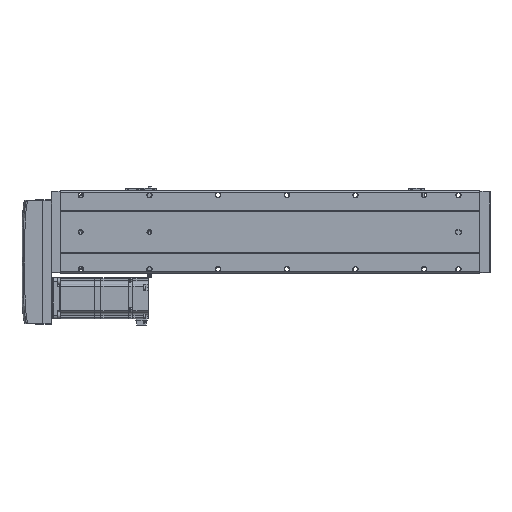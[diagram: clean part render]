
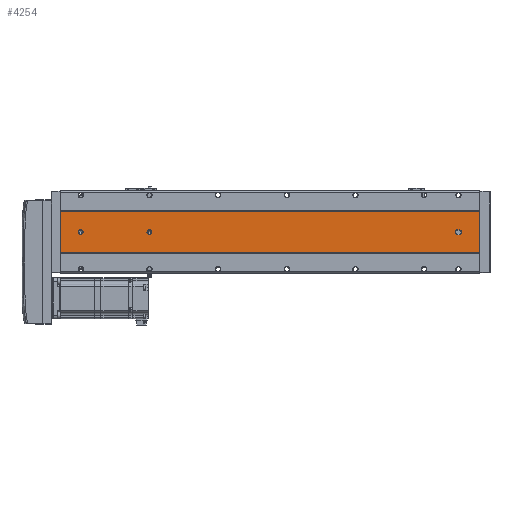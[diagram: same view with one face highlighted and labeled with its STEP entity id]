
A CAD part, front view. The second image highlights one B-rep face of the part: STEP entity #4254.
In plain terms, the highlighted planar face has unit normal (0, -1, 0).
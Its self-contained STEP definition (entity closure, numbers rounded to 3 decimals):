
#542 = DIRECTION ( 'NONE',  ( 0., 1., 0. ) ) ;
#2502 = LINE ( 'NONE', #67279, #59834 ) ;
#4254 = ADVANCED_FACE ( 'NONE', ( #12979, #61529, #55682, #29507 ), #33569, .F. ) ;
#5272 = DIRECTION ( 'NONE',  ( 0., 1., 0. ) ) ;
#5657 = VECTOR ( 'NONE', #48049, 1000. ) ;
#7286 = DIRECTION ( 'NONE',  ( 0., 0., 1. ) ) ;
#7957 = DIRECTION ( 'NONE',  ( 0., 0., 1. ) ) ;
#8368 = VERTEX_POINT ( 'NONE', #42038 ) ;
#11770 = EDGE_CURVE ( 'NONE', #33171, #8368, #33337, .T. ) ;
#11999 = EDGE_CURVE ( 'NONE', #25444, #15240, #68230, .T. ) ;
#12266 = CARTESIAN_POINT ( 'NONE',  ( -39.892, -52.848, 484.5 ) ) ;
#12838 = VERTEX_POINT ( 'NONE', #55148 ) ;
#12979 = FACE_BOUND ( 'NONE', #27440, .T. ) ;
#13769 = EDGE_LOOP ( 'NONE', ( #55875, #26212 ) ) ;
#14122 = VERTEX_POINT ( 'NONE', #28228 ) ;
#14485 = VECTOR ( 'NONE', #54344, 1000. ) ;
#15180 = LINE ( 'NONE', #21025, #73501 ) ;
#15240 = VERTEX_POINT ( 'NONE', #16102 ) ;
#15526 = VERTEX_POINT ( 'NONE', #41760 ) ;
#16102 = CARTESIAN_POINT ( 'NONE',  ( -39.892, -52.848, 584.5 ) ) ;
#18946 = VERTEX_POINT ( 'NONE', #64636 ) ;
#19432 = ORIENTED_EDGE ( 'NONE', *, *, #73470, .T. ) ;
#19637 = CIRCLE ( 'NONE', #65795, 3.5 ) ;
#21025 = CARTESIAN_POINT ( 'NONE',  ( -43.392, -52.848, 611. ) ) ;
#21238 = LINE ( 'NONE', #28581, #14485 ) ;
#23155 = DIRECTION ( 'NONE',  ( 0., 0., 1. ) ) ;
#24041 = AXIS2_PLACEMENT_3D ( 'NONE', #42446, #5272, #23155 ) ;
#24717 = CARTESIAN_POINT ( 'NONE',  ( -43.392, -52.848, 30. ) ) ;
#25276 = VERTEX_POINT ( 'NONE', #12266 ) ;
#25317 = CARTESIAN_POINT ( 'NONE',  ( -69.892, -52.848, 611. ) ) ;
#25444 = VERTEX_POINT ( 'NONE', #51061 ) ;
#26212 = ORIENTED_EDGE ( 'NONE', *, *, #79389, .T. ) ;
#27440 = EDGE_LOOP ( 'NONE', ( #33205, #69067, #68941, #31329, #71698 ) ) ;
#28228 = CARTESIAN_POINT ( 'NONE',  ( -39.892, -52.848, 26.5 ) ) ;
#28409 = DIRECTION ( 'NONE',  ( 0., 0., 1. ) ) ;
#28581 = CARTESIAN_POINT ( 'NONE',  ( -69.892, -52.848, 611. ) ) ;
#29119 = DIRECTION ( 'NONE',  ( 0., 0., 1. ) ) ;
#29332 = CARTESIAN_POINT ( 'NONE',  ( -36.392, -52.848, 611. ) ) ;
#29507 = FACE_OUTER_BOUND ( 'NONE', #69387, .T. ) ;
#29638 = DIRECTION ( 'NONE',  ( 0., 1., 0. ) ) ;
#30088 = DIRECTION ( 'NONE',  ( 1., 0., 0. ) ) ;
#30476 = LINE ( 'NONE', #45319, #53736 ) ;
#31329 = ORIENTED_EDGE ( 'NONE', *, *, #75449, .T. ) ;
#31357 = EDGE_CURVE ( 'NONE', #8368, #12838, #30476, .T. ) ;
#33171 = VERTEX_POINT ( 'NONE', #75294 ) ;
#33205 = ORIENTED_EDGE ( 'NONE', *, *, #59743, .T. ) ;
#33337 = LINE ( 'NONE', #25317, #39145 ) ;
#33569 = PLANE ( 'NONE',  #74271 ) ;
#33840 = CARTESIAN_POINT ( 'NONE',  ( -69.892, -52.848, 611. ) ) ;
#34382 = DIRECTION ( 'NONE',  ( 0., 1., 0. ) ) ;
#34495 = DIRECTION ( 'NONE',  ( 0., 1., 0. ) ) ;
#35483 = ORIENTED_EDGE ( 'NONE', *, *, #63295, .T. ) ;
#35602 = AXIS2_PLACEMENT_3D ( 'NONE', #49006, #36777, #55266 ) ;
#36777 = DIRECTION ( 'NONE',  ( 0., 1., 0. ) ) ;
#36809 = VERTEX_POINT ( 'NONE', #24717 ) ;
#38275 = CARTESIAN_POINT ( 'NONE',  ( -39.892, -52.848, 30. ) ) ;
#38673 = LINE ( 'NONE', #29332, #5657 ) ;
#38818 = DIRECTION ( 'NONE',  ( 0., 0., -1. ) ) ;
#39145 = VECTOR ( 'NONE', #49773, 1000. ) ;
#40675 = CIRCLE ( 'NONE', #24041, 3.5 ) ;
#41534 = EDGE_CURVE ( 'NONE', #14122, #36809, #62293, .T. ) ;
#41760 = CARTESIAN_POINT ( 'NONE',  ( -43.392, -52.848, 32. ) ) ;
#42038 = CARTESIAN_POINT ( 'NONE',  ( -9.892, -52.848, 611. ) ) ;
#42403 = VERTEX_POINT ( 'NONE', #79435 ) ;
#42446 = CARTESIAN_POINT ( 'NONE',  ( -39.892, -52.848, 581. ) ) ;
#45016 = CARTESIAN_POINT ( 'NONE',  ( -36.392, -52.848, 32. ) ) ;
#45183 = CARTESIAN_POINT ( 'NONE',  ( -39.892, -52.848, 30. ) ) ;
#45319 = CARTESIAN_POINT ( 'NONE',  ( -9.892, -52.848, 611. ) ) ;
#46092 = AXIS2_PLACEMENT_3D ( 'NONE', #38275, #542, #7286 ) ;
#46934 = DIRECTION ( 'NONE',  ( 0., 0., 1. ) ) ;
#47223 = CARTESIAN_POINT ( 'NONE',  ( -39.892, -52.848, 32. ) ) ;
#47660 = VERTEX_POINT ( 'NONE', #45016 ) ;
#48049 = DIRECTION ( 'NONE',  ( 0., 0., -1. ) ) ;
#49006 = CARTESIAN_POINT ( 'NONE',  ( -39.892, -52.848, 481. ) ) ;
#49599 = CIRCLE ( 'NONE', #35602, 3.5 ) ;
#49773 = DIRECTION ( 'NONE',  ( 1., 0., 0. ) ) ;
#50256 = CARTESIAN_POINT ( 'NONE',  ( -69.892, -52.848, 0. ) ) ;
#51061 = CARTESIAN_POINT ( 'NONE',  ( -39.892, -52.848, 577.5 ) ) ;
#52272 = DIRECTION ( 'NONE',  ( 0., 0., 1. ) ) ;
#52661 = DIRECTION ( 'NONE',  ( 0., 0., 1. ) ) ;
#53494 = ORIENTED_EDGE ( 'NONE', *, *, #11770, .F. ) ;
#53736 = VECTOR ( 'NONE', #38818, 1000. ) ;
#54344 = DIRECTION ( 'NONE',  ( 0., 0., -1. ) ) ;
#54647 = EDGE_CURVE ( 'NONE', #18946, #14122, #74930, .T. ) ;
#55148 = CARTESIAN_POINT ( 'NONE',  ( -9.892, -52.848, 0. ) ) ;
#55259 = EDGE_CURVE ( 'NONE', #42403, #25276, #49599, .T. ) ;
#55266 = DIRECTION ( 'NONE',  ( 0., 0., 1. ) ) ;
#55364 = AXIS2_PLACEMENT_3D ( 'NONE', #45183, #69099, #7957 ) ;
#55682 = FACE_BOUND ( 'NONE', #13769, .T. ) ;
#55729 = EDGE_CURVE ( 'NONE', #33171, #71974, #21238, .T. ) ;
#55875 = ORIENTED_EDGE ( 'NONE', *, *, #11999, .T. ) ;
#58199 = AXIS2_PLACEMENT_3D ( 'NONE', #47223, #34495, #52661 ) ;
#58409 = ORIENTED_EDGE ( 'NONE', *, *, #31357, .F. ) ;
#59437 = EDGE_LOOP ( 'NONE', ( #78900, #19432 ) ) ;
#59743 = EDGE_CURVE ( 'NONE', #47660, #18946, #38673, .T. ) ;
#59834 = VECTOR ( 'NONE', #30088, 1000. ) ;
#59854 = ORIENTED_EDGE ( 'NONE', *, *, #55729, .T. ) ;
#61529 = FACE_BOUND ( 'NONE', #59437, .T. ) ;
#62293 = CIRCLE ( 'NONE', #46092, 3.5 ) ;
#63295 = EDGE_CURVE ( 'NONE', #71974, #12838, #2502, .T. ) ;
#64636 = CARTESIAN_POINT ( 'NONE',  ( -36.392, -52.848, 30. ) ) ;
#64853 = CARTESIAN_POINT ( 'NONE',  ( -39.892, -52.848, 481. ) ) ;
#65373 = DIRECTION ( 'NONE',  ( 0., 1., 0. ) ) ;
#65795 = AXIS2_PLACEMENT_3D ( 'NONE', #64853, #65373, #46934 ) ;
#66372 = AXIS2_PLACEMENT_3D ( 'NONE', #66839, #29638, #29119 ) ;
#66839 = CARTESIAN_POINT ( 'NONE',  ( -39.892, -52.848, 581. ) ) ;
#67279 = CARTESIAN_POINT ( 'NONE',  ( -69.892, -52.848, 0. ) ) ;
#68230 = CIRCLE ( 'NONE', #66372, 3.5 ) ;
#68313 = EDGE_CURVE ( 'NONE', #15526, #47660, #74456, .T. ) ;
#68941 = ORIENTED_EDGE ( 'NONE', *, *, #41534, .T. ) ;
#69067 = ORIENTED_EDGE ( 'NONE', *, *, #54647, .T. ) ;
#69099 = DIRECTION ( 'NONE',  ( 0., 1., 0. ) ) ;
#69387 = EDGE_LOOP ( 'NONE', ( #35483, #58409, #53494, #59854 ) ) ;
#71698 = ORIENTED_EDGE ( 'NONE', *, *, #68313, .T. ) ;
#71974 = VERTEX_POINT ( 'NONE', #50256 ) ;
#73470 = EDGE_CURVE ( 'NONE', #25276, #42403, #19637, .T. ) ;
#73501 = VECTOR ( 'NONE', #52272, 1000. ) ;
#74271 = AXIS2_PLACEMENT_3D ( 'NONE', #33840, #34382, #28409 ) ;
#74456 = CIRCLE ( 'NONE', #58199, 3.5 ) ;
#74930 = CIRCLE ( 'NONE', #55364, 3.5 ) ;
#75294 = CARTESIAN_POINT ( 'NONE',  ( -69.892, -52.848, 611. ) ) ;
#75449 = EDGE_CURVE ( 'NONE', #36809, #15526, #15180, .T. ) ;
#78900 = ORIENTED_EDGE ( 'NONE', *, *, #55259, .T. ) ;
#79389 = EDGE_CURVE ( 'NONE', #15240, #25444, #40675, .T. ) ;
#79435 = CARTESIAN_POINT ( 'NONE',  ( -39.892, -52.848, 477.5 ) ) ;
